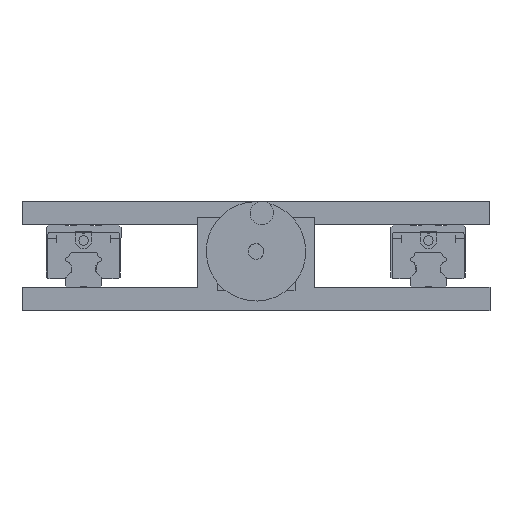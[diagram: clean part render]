
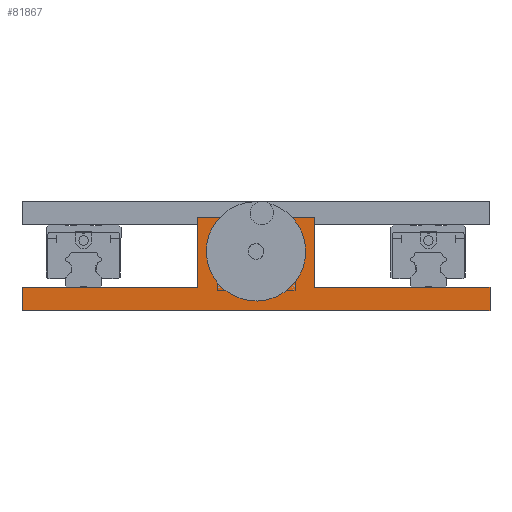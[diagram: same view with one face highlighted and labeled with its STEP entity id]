
A CAD part, front view. The second image highlights one B-rep face of the part: STEP entity #81867.
In plain terms, the highlighted planar face has unit normal (0, -1, 0).
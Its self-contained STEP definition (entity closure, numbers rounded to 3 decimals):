
#365 = CIRCLE ( 'NONE', #40913, 5. ) ;
#669 = DIRECTION ( 'NONE',  ( 1., 0., 0. ) ) ;
#1793 = LINE ( 'NONE', #48318, #60416 ) ;
#2036 = VECTOR ( 'NONE', #72080, 1000. ) ;
#3246 = DIRECTION ( 'NONE',  ( 1., 0., 0. ) ) ;
#4389 = VERTEX_POINT ( 'NONE', #17236 ) ;
#5331 = CARTESIAN_POINT ( 'NONE',  ( -37.5, -816.5, 60. ) ) ;
#5678 = VERTEX_POINT ( 'NONE', #5331 ) ;
#5896 = VECTOR ( 'NONE', #69438, 1000. ) ;
#6299 = VERTEX_POINT ( 'NONE', #41143 ) ;
#7087 = CARTESIAN_POINT ( 'NONE',  ( -150., -816.5, 15. ) ) ;
#7812 = DIRECTION ( 'NONE',  ( 0., -1., 0. ) ) ;
#9316 = VECTOR ( 'NONE', #19518, 1000. ) ;
#9846 = EDGE_CURVE ( 'NONE', #5678, #53686, #54339, .T. ) ;
#11161 = VECTOR ( 'NONE', #3246, 1000. ) ;
#11320 = FACE_BOUND ( 'NONE', #62726, .T. ) ;
#11350 = VERTEX_POINT ( 'NONE', #54066 ) ;
#12327 = EDGE_CURVE ( 'NONE', #53686, #6299, #1793, .T. ) ;
#12845 = DIRECTION ( 'NONE',  ( 0., 0., 1. ) ) ;
#13441 = LINE ( 'NONE', #7087, #62049 ) ;
#14610 = VERTEX_POINT ( 'NONE', #20616 ) ;
#16476 = VERTEX_POINT ( 'NONE', #72604 ) ;
#17199 = CARTESIAN_POINT ( 'NONE',  ( -37.5, -816.5, 60. ) ) ;
#17236 = CARTESIAN_POINT ( 'NONE',  ( -150., -816.5, 15. ) ) ;
#17297 = ORIENTED_EDGE ( 'NONE', *, *, #9846, .F. ) ;
#19518 = DIRECTION ( 'NONE',  ( 1., 0., 0. ) ) ;
#20616 = CARTESIAN_POINT ( 'NONE',  ( 150., -816.5, 15. ) ) ;
#20930 = ORIENTED_EDGE ( 'NONE', *, *, #49084, .F. ) ;
#21823 = EDGE_CURVE ( 'NONE', #39301, #33429, #365, .T. ) ;
#21862 = VECTOR ( 'NONE', #35442, 1000. ) ;
#22918 = DIRECTION ( 'NONE',  ( 0., 1., 0. ) ) ;
#23490 = CARTESIAN_POINT ( 'NONE',  ( 0., -816.5, 43. ) ) ;
#26136 = AXIS2_PLACEMENT_3D ( 'NONE', #69128, #37653, #75780 ) ;
#27103 = ORIENTED_EDGE ( 'NONE', *, *, #73084, .T. ) ;
#27458 = ORIENTED_EDGE ( 'NONE', *, *, #54157, .T. ) ;
#27710 = ORIENTED_EDGE ( 'NONE', *, *, #12327, .F. ) ;
#28317 = EDGE_LOOP ( 'NONE', ( #57227, #35572, #80107, #27710, #17297, #27103, #31138, #27458 ) ) ;
#31138 = ORIENTED_EDGE ( 'NONE', *, *, #74696, .F. ) ;
#31449 = CARTESIAN_POINT ( 'NONE',  ( -150., -816.5, 15. ) ) ;
#33429 = VERTEX_POINT ( 'NONE', #23490 ) ;
#34158 = LINE ( 'NONE', #31449, #9316 ) ;
#34197 = FACE_OUTER_BOUND ( 'NONE', #28317, .T. ) ;
#35442 = DIRECTION ( 'NONE',  ( 0., 0., -1. ) ) ;
#35572 = ORIENTED_EDGE ( 'NONE', *, *, #42032, .F. ) ;
#37535 = VECTOR ( 'NONE', #69759, 1000. ) ;
#37653 = DIRECTION ( 'NONE',  ( 0., -1., 0. ) ) ;
#39301 = VERTEX_POINT ( 'NONE', #82303 ) ;
#40627 = CARTESIAN_POINT ( 'NONE',  ( 150., -816.5, 15. ) ) ;
#40913 = AXIS2_PLACEMENT_3D ( 'NONE', #45845, #7812, #12845 ) ;
#41143 = CARTESIAN_POINT ( 'NONE',  ( 37.5, -816.5, 15. ) ) ;
#41196 = VERTEX_POINT ( 'NONE', #50708 ) ;
#42032 = EDGE_CURVE ( 'NONE', #14610, #11350, #59622, .T. ) ;
#42064 = CARTESIAN_POINT ( 'NONE',  ( -150., -816.5, 15. ) ) ;
#45845 = CARTESIAN_POINT ( 'NONE',  ( 0., -816.5, 38. ) ) ;
#48318 = CARTESIAN_POINT ( 'NONE',  ( 37.5, -816.5, 60. ) ) ;
#49084 = EDGE_CURVE ( 'NONE', #33429, #39301, #71373, .T. ) ;
#50708 = CARTESIAN_POINT ( 'NONE',  ( -150., -816.5, 0. ) ) ;
#52559 = LINE ( 'NONE', #56769, #5896 ) ;
#53686 = VERTEX_POINT ( 'NONE', #64839 ) ;
#54066 = CARTESIAN_POINT ( 'NONE',  ( 150., -816.5, 0. ) ) ;
#54078 = AXIS2_PLACEMENT_3D ( 'NONE', #42064, #22918, #80205 ) ;
#54157 = EDGE_CURVE ( 'NONE', #4389, #41196, #52559, .T. ) ;
#54339 = LINE ( 'NONE', #17199, #37535 ) ;
#56734 = ORIENTED_EDGE ( 'NONE', *, *, #21823, .F. ) ;
#56769 = CARTESIAN_POINT ( 'NONE',  ( -150., -816.5, 15. ) ) ;
#57227 = ORIENTED_EDGE ( 'NONE', *, *, #72380, .T. ) ;
#59622 = LINE ( 'NONE', #40627, #2036 ) ;
#60190 = CARTESIAN_POINT ( 'NONE',  ( -150., -816.5, 0. ) ) ;
#60361 = CARTESIAN_POINT ( 'NONE',  ( -37.5, -816.5, 60. ) ) ;
#60416 = VECTOR ( 'NONE', #67081, 1000. ) ;
#60520 = LINE ( 'NONE', #60361, #21862 ) ;
#62049 = VECTOR ( 'NONE', #669, 1000. ) ;
#62726 = EDGE_LOOP ( 'NONE', ( #20930, #56734 ) ) ;
#64839 = CARTESIAN_POINT ( 'NONE',  ( 37.5, -816.5, 60. ) ) ;
#66894 = PLANE ( 'NONE',  #54078 ) ;
#67081 = DIRECTION ( 'NONE',  ( 0., 0., -1. ) ) ;
#68596 = LINE ( 'NONE', #60190, #11161 ) ;
#69128 = CARTESIAN_POINT ( 'NONE',  ( 0., -816.5, 38. ) ) ;
#69438 = DIRECTION ( 'NONE',  ( 0., 0., -1. ) ) ;
#69759 = DIRECTION ( 'NONE',  ( 1., 0., 0. ) ) ;
#71373 = CIRCLE ( 'NONE', #26136, 5. ) ;
#72080 = DIRECTION ( 'NONE',  ( 0., 0., -1. ) ) ;
#72380 = EDGE_CURVE ( 'NONE', #41196, #11350, #68596, .T. ) ;
#72604 = CARTESIAN_POINT ( 'NONE',  ( -37.5, -816.5, 15. ) ) ;
#73084 = EDGE_CURVE ( 'NONE', #5678, #16476, #60520, .T. ) ;
#74696 = EDGE_CURVE ( 'NONE', #4389, #16476, #13441, .T. ) ;
#75181 = EDGE_CURVE ( 'NONE', #6299, #14610, #34158, .T. ) ;
#75780 = DIRECTION ( 'NONE',  ( 0., 0., 1. ) ) ;
#80107 = ORIENTED_EDGE ( 'NONE', *, *, #75181, .F. ) ;
#80205 = DIRECTION ( 'NONE',  ( 0., 0., 1. ) ) ;
#81867 = ADVANCED_FACE ( 'NONE', ( #11320, #34197 ), #66894, .F. ) ;
#82303 = CARTESIAN_POINT ( 'NONE',  ( 0., -816.5, 33. ) ) ;
